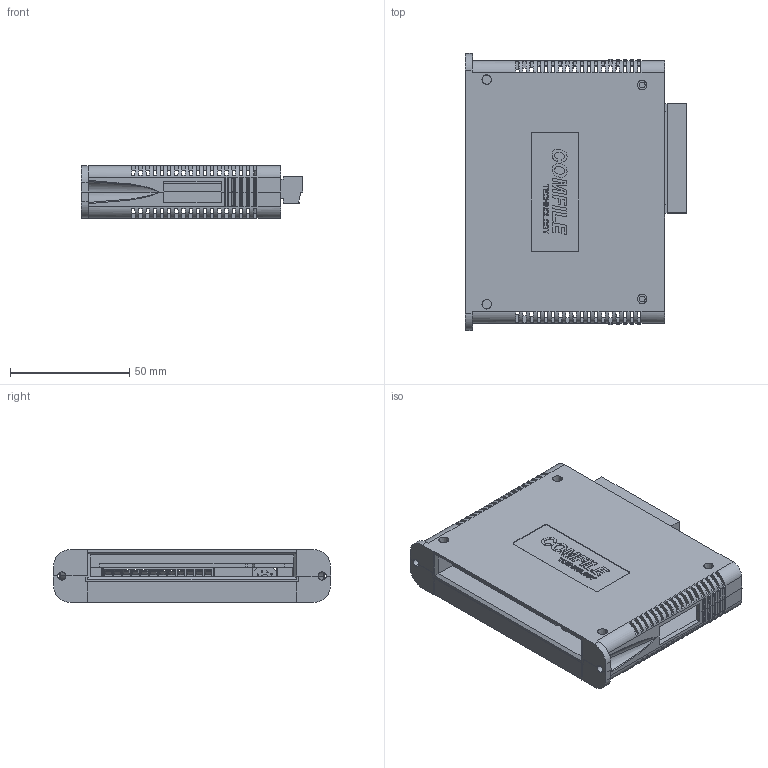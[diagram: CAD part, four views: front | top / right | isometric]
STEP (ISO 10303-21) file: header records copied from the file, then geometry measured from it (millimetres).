
FILE_DESCRIPTION (( 'STEP AP214' ), '1' );
FILE_NAME ('RS-THRT4_ASM.STEP', '2016-06-14T04:22:52', ( 'Registered User' ), ( 'Microsoft Corporation' ), 'SwSTEP 2.0', 'SolidWorks 2014', '' );
FILE_SCHEMA (( 'AUTOMOTIVE_DESIGN' ));
Length unit declared in the file: millimetre
Products named in the file (1): RS-THRT4_ASM
Bounding box: 92.6 x 116 x 22 mm (x, y, z)
Surface area: 54029.5 mm2 (no closed solid volume)
Topology: 0 solids, 17 shells, 1018 faces, 4013 edges, 2845 vertices
Faces by surface type: plane 834, cylinder 159, bspline 15, cone 10
Entity records: 53472 total; most frequent: CARTESIAN_POINT 11152, ORIENTED_EDGE 6181, DIRECTION 5734, EDGE_CURVE 4013, LINE 3188, VECTOR 3188, VERTEX_POINT 2845, AXIS2_PLACEMENT_3D 1273
